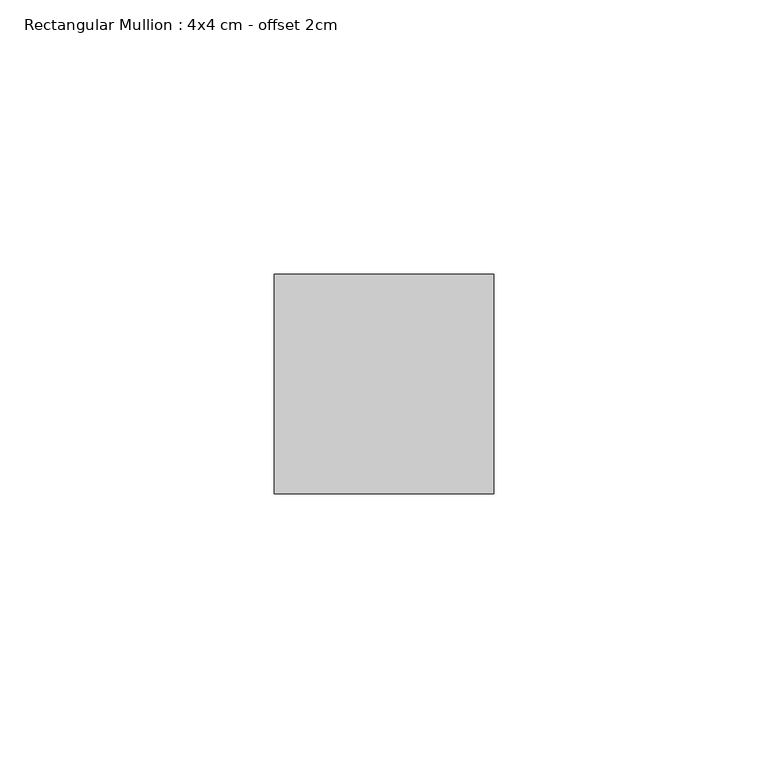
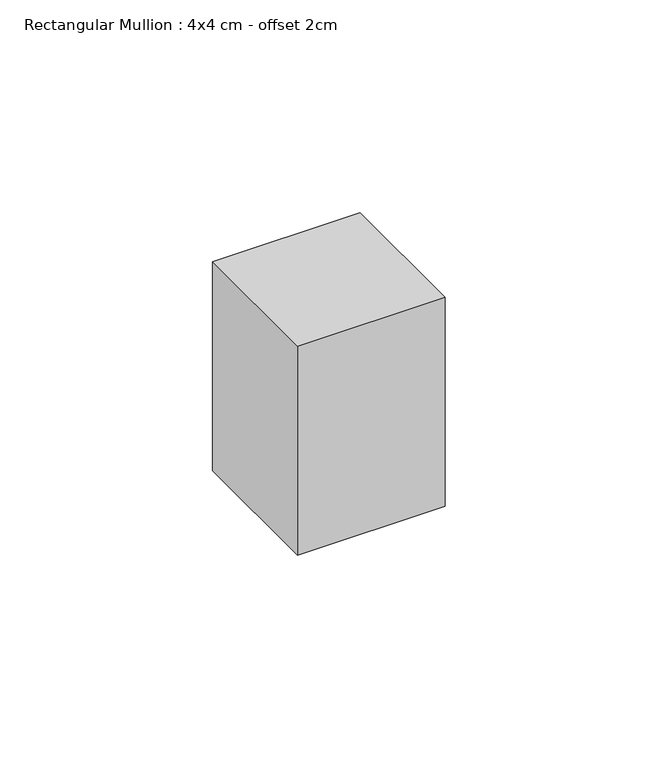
"""IFC4 building model written with IfcOpenShell, lengths in millimetres: member geometry, Rectangular Mullion : 4x4 cm - offset 2cm."""

from ifc_helpers import new_model, si_unit, frame, origin, place, context, project, spatial, polyline, outline, extrude, source, transform, mapped, element, save


def rectangular_mullion_4x4_cm_offset_2cm_8188d6ec(model_context):
    return source(origin(), model_context, "Body", "SweptSolid", [
        extrude(outline(polyline([(0.0, 0.0), (0.0, -40.0), (-40.0, -40.0), (-40.0, 0.0), (0.0, 0.0)])), frame((0.0, 0.0, -60.0), z_axis=(0.0, 0.0, 1.0), x_axis=(1.0, 0.0, 0.0)), (0.0, 0.0, 1.0), 60.0),
    ])


if __name__ == "__main__":
    model = new_model("IFC4")
    model_context = context("Model", 3, world=origin())
    ifc_project = project(units=[si_unit("LENGTHUNIT", "METRE", prefix="MILLI")], contexts=[model_context])
    site = spatial("IfcSite", under=ifc_project)
    building = spatial("IfcBuilding", under=site)
    placement = place(None, origin())
    rectangular_mullion_4x4_cm_offset_2cm_shape = rectangular_mullion_4x4_cm_offset_2cm_8188d6ec(model_context)
    element("IfcMember", 1, ObjectType="Rectangular Mullion : 4x4 cm - offset 2cm", at=placement, inside=building, context=model_context, shape_type="MappedRepresentation", body=[
        mapped(rectangular_mullion_4x4_cm_offset_2cm_shape, transform((0.0, 0.0, 0.0), x_axis=(1.0, 0.0, 0.0), y_axis=(0.0, 1.0, 0.0), z_axis=(0.0, 0.0, 1.0))),
    ])
    save(model, "model.ifc")
